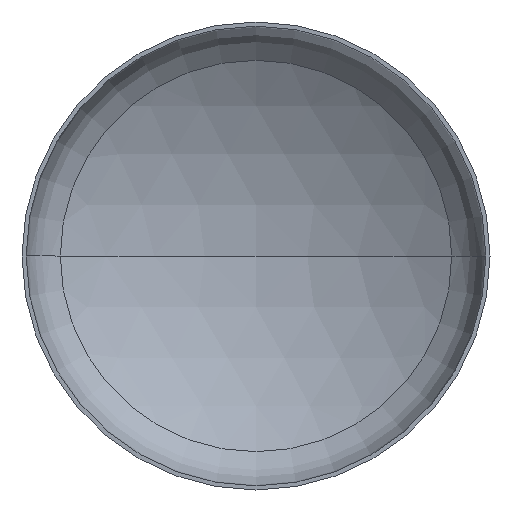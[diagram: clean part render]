
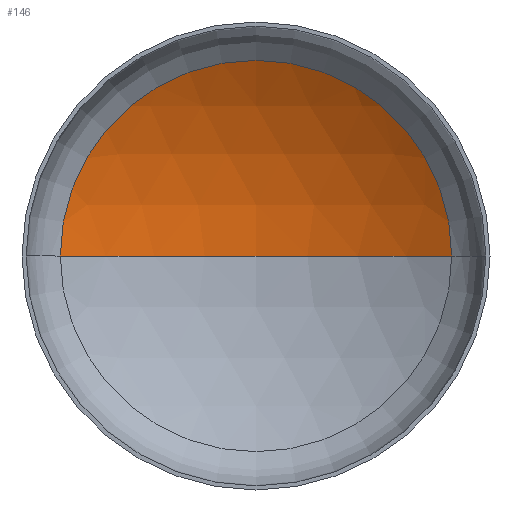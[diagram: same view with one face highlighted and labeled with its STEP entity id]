
A CAD part, front view. The second image highlights one B-rep face of the part: STEP entity #146.
In plain terms, the highlighted spherical face has radius 1440 mm.
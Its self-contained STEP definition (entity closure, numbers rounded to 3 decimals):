
#9 = CARTESIAN_POINT ( 'NONE',  ( 0., 501.851, 0. ) ) ;
#10 = EDGE_LOOP ( 'NONE', ( #82, #54, #18 ) ) ;
#14 = DIRECTION ( 'NONE',  ( 1., 0., 0. ) ) ;
#18 = ORIENTED_EDGE ( 'NONE', *, *, #108, .T. ) ;
#21 = DIRECTION ( 'NONE',  ( 0., 0., 1. ) ) ;
#33 = AXIS2_PLACEMENT_3D ( 'NONE', #279, #287, #248 ) ;
#42 = VERTEX_POINT ( 'NONE', #292 ) ;
#49 = AXIS2_PLACEMENT_3D ( 'NONE', #157, #21, #14 ) ;
#54 = ORIENTED_EDGE ( 'NONE', *, *, #110, .T. ) ;
#56 = AXIS2_PLACEMENT_3D ( 'NONE', #185, #354, #210 ) ;
#59 = AXIS2_PLACEMENT_3D ( 'NONE', #230, #231, #215 ) ;
#79 = SPHERICAL_SURFACE ( 'NONE', #33, 1440. ) ;
#82 = ORIENTED_EDGE ( 'NONE', *, *, #113, .F. ) ;
#83 = VERTEX_POINT ( 'NONE', #373 ) ;
#108 = EDGE_CURVE ( 'NONE', #42, #83, #141, .T. ) ;
#110 = EDGE_CURVE ( 'NONE', #119, #42, #209, .T. ) ;
#113 = EDGE_CURVE ( 'NONE', #119, #83, #323, .T. ) ;
#119 = VERTEX_POINT ( 'NONE', #9 ) ;
#141 = CIRCLE ( 'NONE', #59, 752.755 ) ;
#146 = ADVANCED_FACE ( 'NONE', ( #316 ), #79, .F. ) ;
#157 = CARTESIAN_POINT ( 'NONE',  ( 0., -938.149, 0. ) ) ;
#185 = CARTESIAN_POINT ( 'NONE',  ( 0., -938.149, 0. ) ) ;
#209 = CIRCLE ( 'NONE', #56, 1440. ) ;
#210 = DIRECTION ( 'NONE',  ( -1., 0., 0. ) ) ;
#215 = DIRECTION ( 'NONE',  ( 1., 0., 0. ) ) ;
#230 = CARTESIAN_POINT ( 'NONE',  ( 0., 289.434, 0. ) ) ;
#231 = DIRECTION ( 'NONE',  ( 0., -1., 0. ) ) ;
#248 = DIRECTION ( 'NONE',  ( -1., 0., 0. ) ) ;
#279 = CARTESIAN_POINT ( 'NONE',  ( 0., -938.149, 0. ) ) ;
#287 = DIRECTION ( 'NONE',  ( 0., 0., -1. ) ) ;
#292 = CARTESIAN_POINT ( 'NONE',  ( 752.755, 289.434, 0. ) ) ;
#316 = FACE_OUTER_BOUND ( 'NONE', #10, .T. ) ;
#323 = CIRCLE ( 'NONE', #49, 1440. ) ;
#354 = DIRECTION ( 'NONE',  ( 0., 0., -1. ) ) ;
#373 = CARTESIAN_POINT ( 'NONE',  ( -752.755, 289.434, 0. ) ) ;
